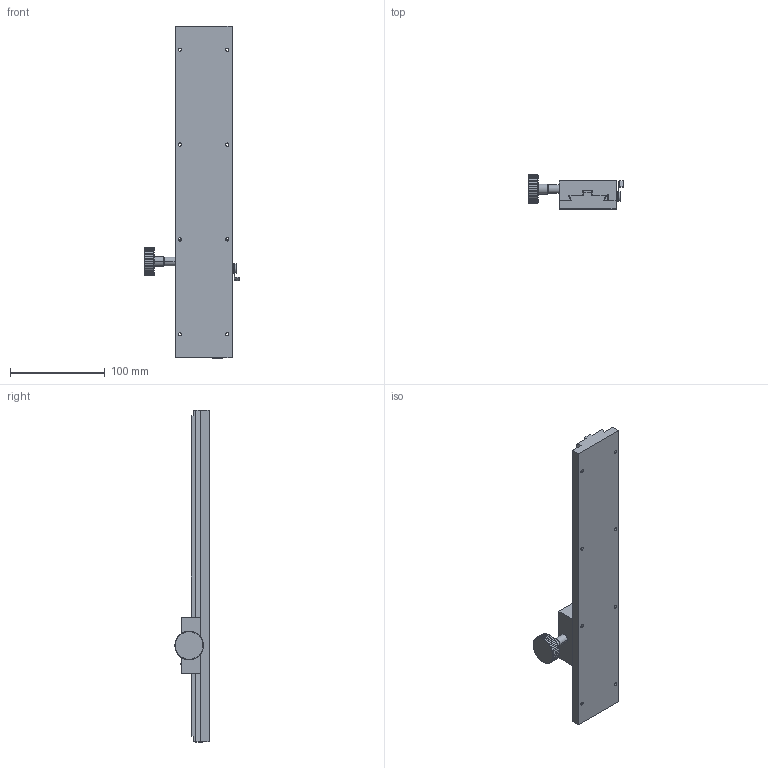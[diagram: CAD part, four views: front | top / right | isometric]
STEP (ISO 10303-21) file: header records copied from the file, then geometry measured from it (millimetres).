
FILE_DESCRIPTION (( 'STEP AP214' ), '1' );
FILE_NAME ('PT-DN60-350.STEP', '2022-08-27T08:34:30', ( '' ), ( '' ), 'SwSTEP 2.0', 'SolidWorks 2017', '' );
FILE_SCHEMA (( 'AUTOMOTIVE_DESIGN' ));
Length unit declared in the file: millimetre
Products named in the file (1): PT-DN60-350
Bounding box: 100.5 x 36 x 350 mm (x, y, z)
Surface area: 74820.8 mm2 (no closed solid volume)
Topology: 0 solids, 7 shells, 267 faces, 864 edges, 584 vertices
Faces by surface type: cylinder 212, plane 48, cone 6, bspline 1
Entity records: 11549 total; most frequent: CARTESIAN_POINT 4061, ORIENTED_EDGE 1567, DIRECTION 1484, EDGE_CURVE 865, VERTEX_POINT 584, AXIS2_PLACEMENT_3D 552, LINE 380, VECTOR 380
